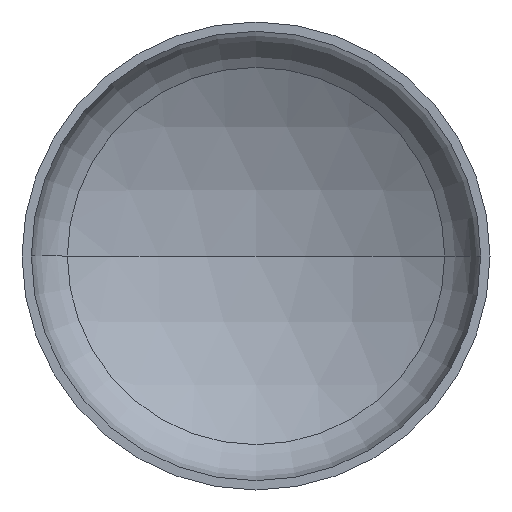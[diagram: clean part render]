
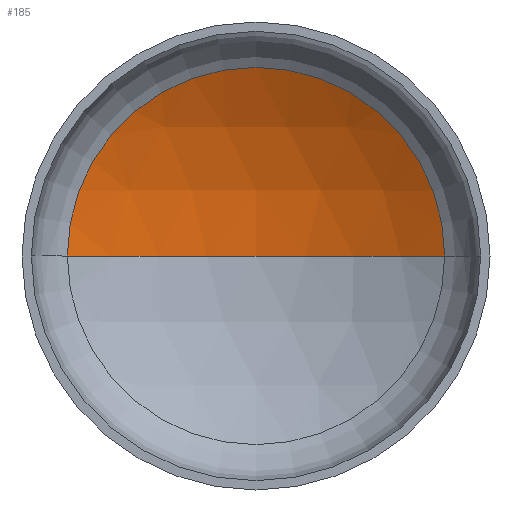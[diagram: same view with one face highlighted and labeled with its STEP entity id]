
A CAD part, front view. The second image highlights one B-rep face of the part: STEP entity #185.
In plain terms, the highlighted spherical face has radius 800 mm.
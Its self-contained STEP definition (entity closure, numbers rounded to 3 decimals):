
#2 = DIRECTION ( 'NONE',  ( 0., -1., 0. ) ) ;
#5 = VERTEX_POINT ( 'NONE', #285 ) ;
#14 = AXIS2_PLACEMENT_3D ( 'NONE', #325, #2, #93 ) ;
#20 = AXIS2_PLACEMENT_3D ( 'NONE', #327, #178, #181 ) ;
#27 = AXIS2_PLACEMENT_3D ( 'NONE', #111, #152, #150 ) ;
#28 = EDGE_LOOP ( 'NONE', ( #126, #78, #107 ) ) ;
#48 = AXIS2_PLACEMENT_3D ( 'NONE', #208, #179, #291 ) ;
#73 = VERTEX_POINT ( 'NONE', #236 ) ;
#78 = ORIENTED_EDGE ( 'NONE', *, *, #346, .T. ) ;
#93 = DIRECTION ( 'NONE',  ( 1., 0., 0. ) ) ;
#107 = ORIENTED_EDGE ( 'NONE', *, *, #368, .T. ) ;
#109 = CARTESIAN_POINT ( 'NONE',  ( -403.101, 193.885, 0. ) ) ;
#111 = CARTESIAN_POINT ( 'NONE',  ( 0., -497.136, 0. ) ) ;
#126 = ORIENTED_EDGE ( 'NONE', *, *, #352, .F. ) ;
#150 = DIRECTION ( 'NONE',  ( -1., 0., 0. ) ) ;
#152 = DIRECTION ( 'NONE',  ( 0., 0., -1. ) ) ;
#175 = CIRCLE ( 'NONE', #27, 800. ) ;
#178 = DIRECTION ( 'NONE',  ( 0., 0., 1. ) ) ;
#179 = DIRECTION ( 'NONE',  ( 0., 0., -1. ) ) ;
#181 = DIRECTION ( 'NONE',  ( 1., 0., 0. ) ) ;
#185 = ADVANCED_FACE ( 'NONE', ( #385 ), #323, .F. ) ;
#208 = CARTESIAN_POINT ( 'NONE',  ( 0., -497.136, 0. ) ) ;
#229 = CIRCLE ( 'NONE', #14, 403.101 ) ;
#236 = CARTESIAN_POINT ( 'NONE',  ( 0., 302.864, 0. ) ) ;
#285 = CARTESIAN_POINT ( 'NONE',  ( 403.101, 193.885, 0. ) ) ;
#291 = DIRECTION ( 'NONE',  ( -1., 0., 0. ) ) ;
#323 = SPHERICAL_SURFACE ( 'NONE', #48, 800. ) ;
#325 = CARTESIAN_POINT ( 'NONE',  ( 0., 193.885, 0. ) ) ;
#327 = CARTESIAN_POINT ( 'NONE',  ( 0., -497.136, 0. ) ) ;
#346 = EDGE_CURVE ( 'NONE', #73, #5, #175, .T. ) ;
#352 = EDGE_CURVE ( 'NONE', #73, #354, #410, .T. ) ;
#354 = VERTEX_POINT ( 'NONE', #109 ) ;
#368 = EDGE_CURVE ( 'NONE', #5, #354, #229, .T. ) ;
#385 = FACE_OUTER_BOUND ( 'NONE', #28, .T. ) ;
#410 = CIRCLE ( 'NONE', #20, 800. ) ;
